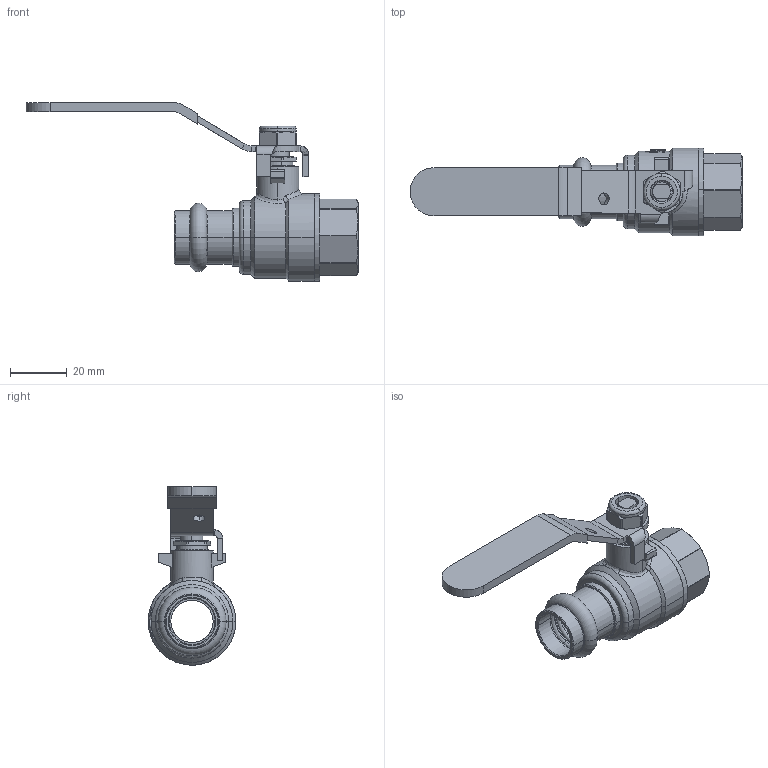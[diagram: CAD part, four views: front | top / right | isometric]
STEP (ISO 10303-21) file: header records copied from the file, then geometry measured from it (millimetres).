
FILE_DESCRIPTION(('Open CASCADE Model'),'2;1');
FILE_NAME('Open CASCADE Shape Model','2021-12-13T15:05:21',('Author'),( 'Open CASCADE'),'Open CASCADE STEP processor 7.3','Open CASCADE 7.3' ,'Unknown');
FILE_SCHEMA(('AUTOMOTIVE_DESIGN { 1 0 10303 214 1 1 1 1 }'));
Length unit declared in the file: millimetre
Products named in the file (13): Open CASCADE STEP translator 7.3 1; Open CASCADE STEP translator 7.3 1.1; Open CASCADE STEP translator 7.3 1.2; Open CASCADE STEP translator 7.3 1.3; Open CASCADE STEP translator 7.3 1.4; Open CASCADE STEP translator 7.3 1.5; Open CASCADE STEP translator 7.3 1.6; Open CASCADE STEP translator 7.3 1.7; Open CASCADE STEP translator 7.3 1.8; Open CASCADE STEP translator 7.3 1.9; Open CASCADE STEP translator 7.3 1.10; Open CASCADE STEP translator 7.3 1.11; Open CASCADE STEP translator 7.3 1.12
Assembly tree (12 placements, depth 2):
  Open CASCADE STEP translator 7.3 1
    Open CASCADE STEP translator 7.3 1.1
    Open CASCADE STEP translator 7.3 1.2
    Open CASCADE STEP translator 7.3 1.3
    Open CASCADE STEP translator 7.3 1.4
    Open CASCADE STEP translator 7.3 1.5
    Open CASCADE STEP translator 7.3 1.6
    Open CASCADE STEP translator 7.3 1.7
    Open CASCADE STEP translator 7.3 1.8
    Open CASCADE STEP translator 7.3 1.9
    Open CASCADE STEP translator 7.3 1.10
    Open CASCADE STEP translator 7.3 1.11
    Open CASCADE STEP translator 7.3 1.12
Bounding box: 117.5 x 31 x 63.15 mm (x, y, z)
Volume: 26316.7 mm3; surface area: 25351.6 mm2
Topology: 12 solids, 12 shells, 611 faces, 1582 edges, 1015 vertices
Faces by surface type: cylinder 185, plane 166, bspline 130, cone 86, torus 36, sphere 6, revolution 2
Entity records: 97456 total; most frequent: CARTESIAN_POINT 69341, DIRECTION 4136, ORIENTED_EDGE 3160, PCURVE 3160, DEFINITIONAL_REPRESENTATION 3160, LINE 2102, VECTOR 2102, B_SPLINE_CURVE_WITH_KNOTS 1763
